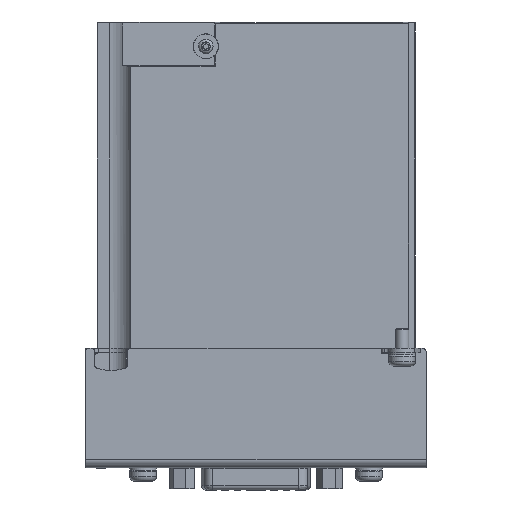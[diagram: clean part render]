
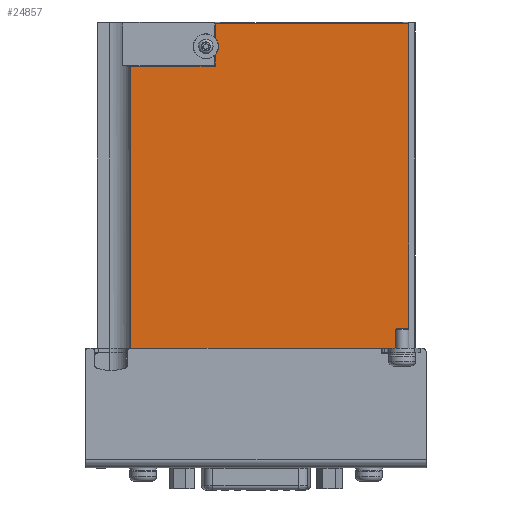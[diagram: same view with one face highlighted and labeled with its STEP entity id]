
A CAD part, front view. The second image highlights one B-rep face of the part: STEP entity #24857.
In plain terms, the highlighted planar face has unit normal (0, -1, 0).
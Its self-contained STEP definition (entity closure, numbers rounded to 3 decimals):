
#1294=FACE_OUTER_BOUND('',#2652,.T.);
#2652=EDGE_LOOP('',(#16420,#16421,#16422,#16423,#16424,#16425,#16426,#16427,
#16428,#16429));
#4065=CIRCLE('',#26427,2.925);
#4693=LINE('',#34573,#7287);
#4735=LINE('',#34668,#7329);
#4746=LINE('',#34693,#7340);
#4778=LINE('',#34768,#7372);
#4779=LINE('',#34769,#7373);
#4780=LINE('',#34770,#7374);
#4781=LINE('',#34772,#7375);
#4782=LINE('',#34773,#7376);
#4783=LINE('',#34774,#7377);
#7287=VECTOR('',#28766,1.);
#7329=VECTOR('',#28840,1.);
#7340=VECTOR('',#28859,1.);
#7372=VECTOR('',#28921,1.);
#7373=VECTOR('',#28922,1.);
#7374=VECTOR('',#28923,10.);
#7375=VECTOR('',#28924,10.);
#7376=VECTOR('',#28925,1.);
#7377=VECTOR('',#28926,1.);
#9947=VERTEX_POINT('',#34570);
#9948=VERTEX_POINT('',#34572);
#9984=VERTEX_POINT('',#34665);
#9985=VERTEX_POINT('',#34667);
#9992=VERTEX_POINT('',#34685);
#9995=VERTEX_POINT('',#34691);
#10020=VERTEX_POINT('',#34759);
#10021=VERTEX_POINT('',#34761);
#10023=VERTEX_POINT('',#34767);
#10024=VERTEX_POINT('',#34771);
#12418=EDGE_CURVE('',#9948,#9947,#4693,.T.);
#12465=EDGE_CURVE('',#9985,#9984,#4735,.T.);
#12478=EDGE_CURVE('',#9995,#9992,#4746,.T.);
#12512=EDGE_CURVE('',#10021,#10020,#4065,.T.);
#12515=EDGE_CURVE('',#10020,#10023,#4778,.T.);
#12516=EDGE_CURVE('',#10023,#9992,#4779,.T.);
#12517=EDGE_CURVE('',#9948,#9995,#4780,.T.);
#12518=EDGE_CURVE('',#10024,#9947,#4781,.T.);
#12519=EDGE_CURVE('',#10024,#9985,#4782,.T.);
#12520=EDGE_CURVE('',#9984,#10021,#4783,.T.);
#16420=ORIENTED_EDGE('',*,*,#12512,.T.);
#16421=ORIENTED_EDGE('',*,*,#12515,.T.);
#16422=ORIENTED_EDGE('',*,*,#12516,.T.);
#16423=ORIENTED_EDGE('',*,*,#12478,.F.);
#16424=ORIENTED_EDGE('',*,*,#12517,.F.);
#16425=ORIENTED_EDGE('',*,*,#12418,.T.);
#16426=ORIENTED_EDGE('',*,*,#12518,.F.);
#16427=ORIENTED_EDGE('',*,*,#12519,.T.);
#16428=ORIENTED_EDGE('',*,*,#12465,.T.);
#16429=ORIENTED_EDGE('',*,*,#12520,.T.);
#22543=PLANE('',#26430);
#24857=ADVANCED_FACE('',(#1294),#22543,.T.);
#26427=AXIS2_PLACEMENT_3D('',#34762,#28913,#28914);
#26430=AXIS2_PLACEMENT_3D('',#34766,#28919,#28920);
#28766=DIRECTION('',(1.,0.,0.));
#28840=DIRECTION('',(-1.,0.,0.));
#28859=DIRECTION('',(0.,0.,1.));
#28913=DIRECTION('center_axis',(0.,1.,0.));
#28914=DIRECTION('ref_axis',(-1.,0.,0.));
#28919=DIRECTION('center_axis',(0.,-1.,0.));
#28920=DIRECTION('ref_axis',(0.,0.,
1.));
#28921=DIRECTION('',(0.,0.,-1.));
#28922=DIRECTION('',(-1.,0.,0.));
#28923=DIRECTION('',(-1.,0.,0.));
#28924=DIRECTION('',(-1.,0.,0.));
#28925=DIRECTION('',(0.,0.,1.));
#28926=DIRECTION('',(0.,0.,-1.));
#34570=CARTESIAN_POINT('',(82.679,-32.429,7.999));
#34572=CARTESIAN_POINT('',(26.439,-32.429,7.999));
#34573=CARTESIAN_POINT('',(25.827,-32.429,7.999));
#34665=CARTESIAN_POINT('',(44.945,-32.429,81.398));
#34667=CARTESIAN_POINT('',(88.545,-32.429,81.398));
#34668=CARTESIAN_POINT('',(71.434,-32.429,81.398));
#34685=CARTESIAN_POINT('',(25.827,-32.429,71.699));
#34691=CARTESIAN_POINT('',(25.827,-32.429,7.999));
#34693=CARTESIAN_POINT('',(25.827,-32.429,7.999));
#34759=CARTESIAN_POINT('',(44.945,-32.429,74.163));
#34761=CARTESIAN_POINT('',(44.945,-32.429,78.234));
#34762=CARTESIAN_POINT('Origin',(42.845,-32.429,76.199));
#34766=CARTESIAN_POINT('Origin',(88.545,-32.429,7.999));
#34767=CARTESIAN_POINT('',(44.945,-32.429,71.699));
#34768=CARTESIAN_POINT('',(44.945,-32.429,44.849));
#34769=CARTESIAN_POINT('',(61.534,-32.429,71.699));
#34770=CARTESIAN_POINT('',(71.862,-32.429,7.999));
#34771=CARTESIAN_POINT('',(88.545,-32.429,7.999));
#34772=CARTESIAN_POINT('',(71.862,-32.429,7.999));
#34773=CARTESIAN_POINT('',(88.545,-32.429,7.999));
#34774=CARTESIAN_POINT('',(44.945,-32.429,44.849));
